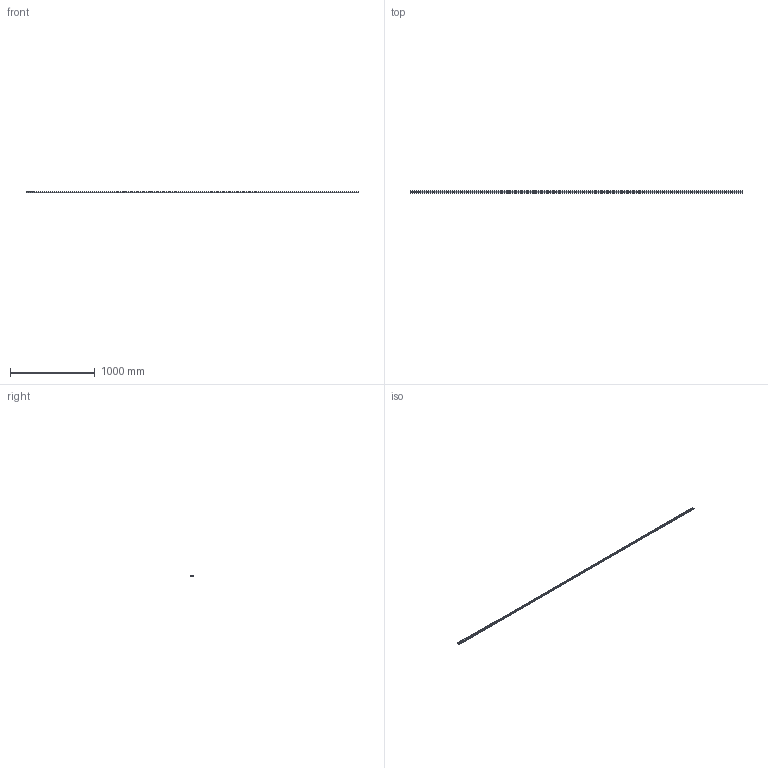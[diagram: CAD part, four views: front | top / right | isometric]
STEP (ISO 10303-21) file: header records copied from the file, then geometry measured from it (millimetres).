
FILE_DESCRIPTION( ( 'STEP AP214' ), '1' );
FILE_NAME( 'p:/temp/worker_22/temp/exporttempdir_5640_325_EMrB6/format_0/TEN26-3920-CEN26-92.stp', '2020-05-08T18:56:12', ( 'License CC BY-ND 4.0' ), ( 'CADENAS' ), ' ', 'PARTsolutions', ' ' );
FILE_SCHEMA( ( 'AUTOMOTIVE_DESIGN { 1 0 10303 214 1 1 1 1 }' ) );
Length unit declared in the file: millimetre
Products named in the file (6): TEN26-3920-CEN26-92; _TEN 26-3920; _CEN26-92_1; _RLN26(11.2_M5); _RLA26(11.2_M5); _LAN-26
Assembly tree (8 placements, depth 2):
  TEN26-3920-CEN26-92
    _TEN 26-3920
    _CEN26-92_1
    _RLN26(11.2_M5)  x2
    _RLA26(11.2_M5)
    _LAN-26  x3
Bounding box: 3920 x 25.88 x 22 mm (x, y, z)
Volume: 417827.6 mm3; surface area: 355020.3 mm2
Topology: 8 solids, 8 shells, 282 faces, 648 edges, 409 vertices
Faces by surface type: plane 131, cylinder 118, cone 24, bspline 9
Full cylindrical faces by diameter (mm): 2.5 x2, 4.134 x5, 4.5 x3, 5 x6, 6.5 x49, 9.3 x3, 11.2 x6, 11.6 x6, 15.7 x6, 16.7 x6
Entity records: 7316 total; most frequent: CARTESIAN_POINT 1030, DIRECTION 1006, ORIENTED_EDGE 730, AXIS2_PLACEMENT_3D 439, EDGE_LOOP 428, EDGE_CURVE 365, VERTEX_POINT 295, FACE_OUTER_BOUND 282
